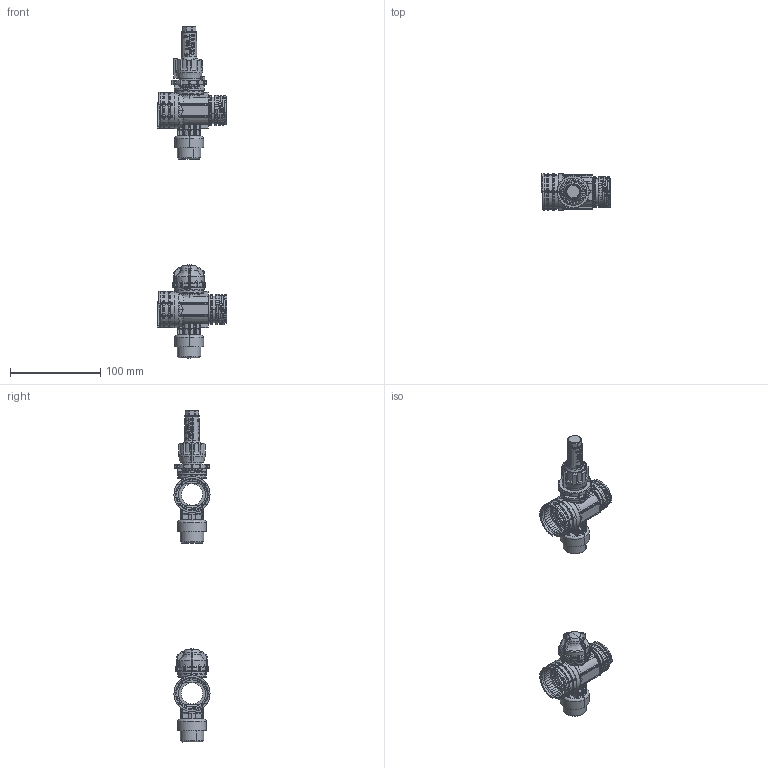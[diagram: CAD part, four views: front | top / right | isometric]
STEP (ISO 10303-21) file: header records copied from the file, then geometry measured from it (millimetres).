
FILE_DESCRIPTION (( 'STEP AP214' ), '1' );
FILE_NAME ('ca³oœæ.STEP', '2022-05-30T11:53:55', ( '' ), ( '' ), 'SwSTEP 2.0', 'SolidWorks 2021', '' );
FILE_SCHEMA (( 'AUTOMOTIVE_DESIGN' ));
Length unit declared in the file: millimetre
Products named in the file (14): HANDRAD_05 01 000315; KONUS_05 05 030711_0; Skala 1-6 l_min; 05 01 000269_Ventilk_X_F6rper M30x1,5 AG_0; SCHRAUBKAPPE_05 01 000377; ca硂滄; 1cz; RING_05 01 000188_0; SPINDEL-ZUSBAU; EINSCHRAUBK_X_D6RPER_05 01 000276_0; Stellmutter M30x1,5 IG, blau_05 01 000352; 2cz; DFM Universalver._05 01 00 49
Assembly tree (16 placements, depth 5):
  ca硂滄
    1cz  x2
    2cz  x2
    Stellmutter M30x1,5 IG, blau_05 01 000352
    KONUS_05 05 030711_0  x2
    05 01 000269_Ventilk_X_F6rper M30x1,5 AG_0
    DFM Universalver._05 01 00 49
      SPINDEL-ZUSBAU
        SCHRAUBKAPPE_05 01 000377
          SCHRAUBKAPPE_05 01 000377
          Skala 1-6 l_min
      EINSCHRAUBK_X_D6RPER_05 01 000276_0
      HANDRAD_05 01 000315
    RING_05 01 000188_0
Bounding box: 77.35 x 40 x 368.08 mm (x, y, z)
Volume: 116998.7 mm3; surface area: 95754.4 mm2
Topology: 105 solids, 105 shells, 8549 faces, 20173 edges, 11867 vertices
Faces by surface type: plane 6511, cylinder 1096, bspline 489, cone 395, torus 58
Entity records: 238194 total; most frequent: CARTESIAN_POINT 68137, ORIENTED_EDGE 26582, DIRECTION 22122, EDGE_CURVE 13291, VERTEX_POINT 8028, LINE 7404, VECTOR 7404, AXIS2_PLACEMENT_3D 7359
